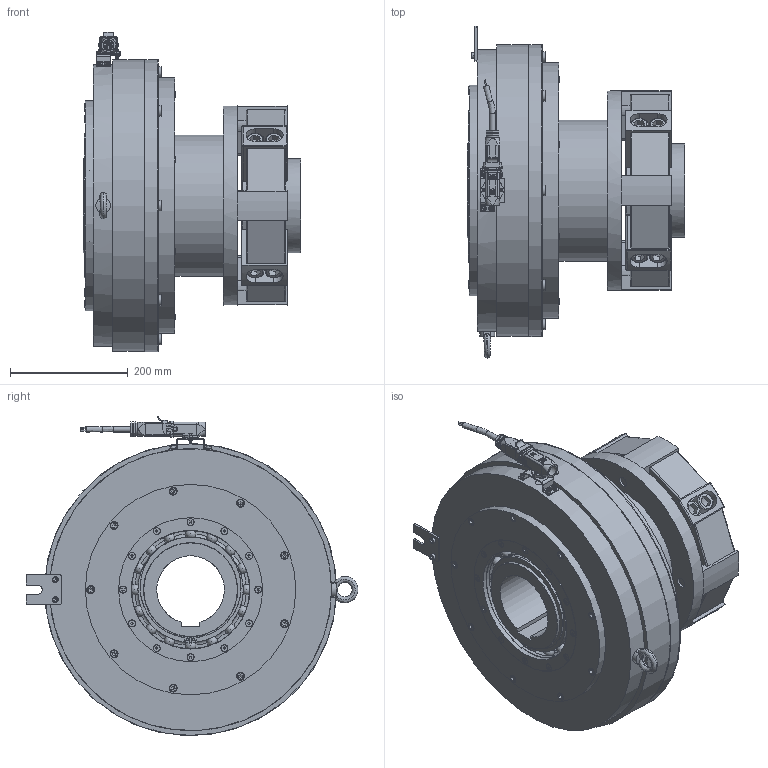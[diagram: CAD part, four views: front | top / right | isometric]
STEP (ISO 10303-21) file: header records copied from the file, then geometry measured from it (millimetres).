
FILE_DESCRIPTION(/* description */ (''),/* implementation_level */ '2;1');
FILE_NAME(/* name */ 'X:\INVENTOR\DISEGNI\08_Freni_Friz_Elettmag_Monodisco\08_26 EMSL_DF\EMSL_DF STEP\08_26_500_51 EMSL500_DF-GE_S@STEP.stp',/* time_stamp */ '2018-04-24T10:21:28+02:00',/* author */ ('stefano'),/* organization */ (''),/* preprocessor_version */ 'ST-DEVELOPER v17',/* originating_system */ 'Autodesk Inventor 2018',/* authorisation */ '');
FILE_SCHEMA (('AUTOMOTIVE_DESIGN { 1 0 10303 214 3 1 1 }'));
Products named in the file (1): 08_26_500_51 EMSL500_DF-GE - Spina_Substitute_1
Bounding box: 370 x 564.8 x 543.04 mm (x, y, z)
Volume: 28116193.1 mm3; surface area: 2882059.1 mm2
Topology: 2 solids, 2 shells, 2747 faces, 8027 edges, 5436 vertices
Faces by surface type: plane 1504, cylinder 795, cone 194, torus 171, sphere 58, bspline 25
Full cylindrical faces by diameter (mm): 0.35 x1, 0.491 x1, 0.753 x1, 0.95 x1, 0.986 x1, 1.05 x1, 2.5 x2, 3 x4, 3.2 x1, 3.25 x2, 3.59 x3, 4 x7, 4.675 x2, 4.8 x2, 5 x20, 5.25 x4, 5.5 x2, 6 x6, 6.2 x1, 7 x1, 7.9 x2, 8 x8, 8.2 x2, 8.376 x20, 8.5 x4, 9.5 x2, 10 x2, 11.34 x12, 12 x12, 12.5 x8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
Entity records: 104421 total; most frequent: CARTESIAN_POINT 28044, ORIENTED_EDGE 15698, DIRECTION 15260, EDGE_CURVE 7849, AXIS2_PLACEMENT_3D 5665, VERTEX_POINT 5436, LINE 3930, VECTOR 3930
